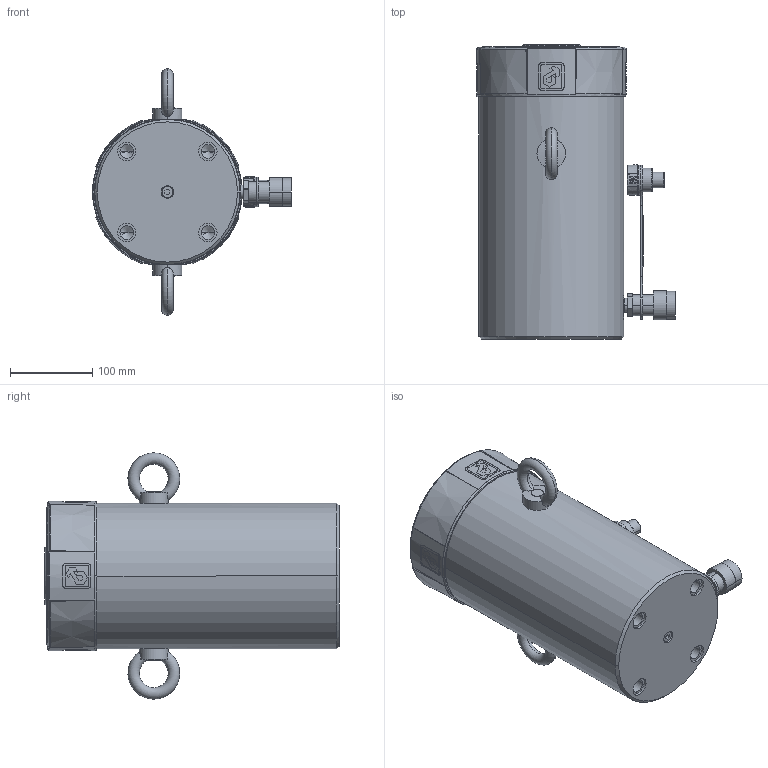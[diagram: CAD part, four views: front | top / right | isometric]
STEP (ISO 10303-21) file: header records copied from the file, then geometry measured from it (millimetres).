
FILE_DESCRIPTION((''),'2;1');
FILE_NAME('RC1006_SW0001','2021-11-19T12:00:16',('jorge.gonzalez'),(''),'CREO PARAMETRIC BY PTC INC, 2020454','CREO PARAMETRIC BY PTC INC, 2020454','');
FILE_SCHEMA(('CONFIG_CONTROL_DESIGN'));
Products named in the file (1): RC1006_SW0001
Bounding box: 241.9 x 358.2 x 299.66 mm (x, y, z)
Volume: 8235022 mm3; surface area: 586158.5 mm2
Topology: 3 solids, 3 shells, 1537 faces, 3939 edges, 2502 vertices
Faces by surface type: plane 595, bspline 379, cylinder 200, cone 136, extrusion 133, torus 86, revolution 8
Entity records: 107769 total; most frequent: CARTESIAN_POINT 74053, ORIENTED_EDGE 7842, DIRECTION 5560, EDGE_CURVE 3921, VERTEX_POINT 2502, AXIS2_PLACEMENT_3D 1919, VECTOR 1714, EDGE_LOOP 1695
